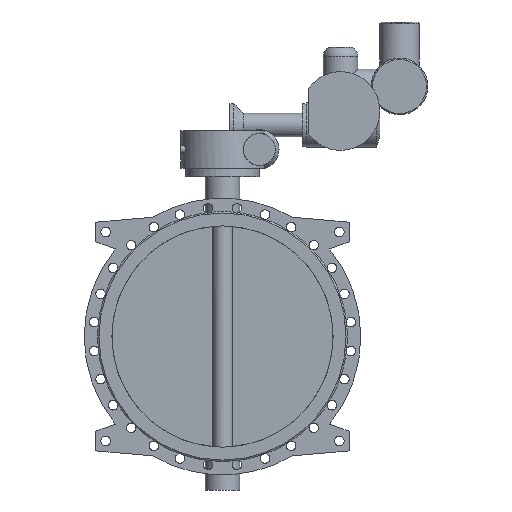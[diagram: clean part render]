
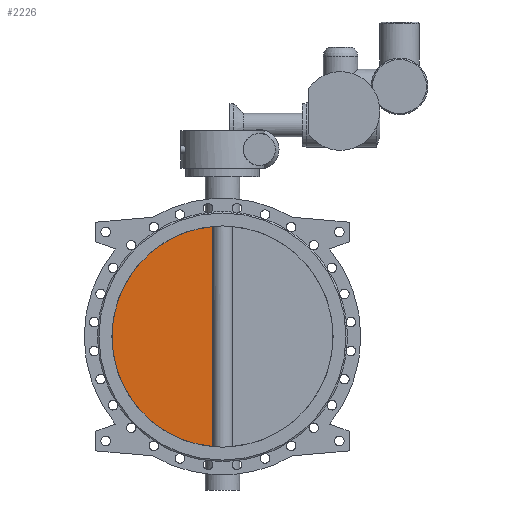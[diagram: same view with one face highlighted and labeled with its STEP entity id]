
A CAD part, front view. The second image highlights one B-rep face of the part: STEP entity #2226.
In plain terms, the highlighted planar face has unit normal (0, -1, 0).
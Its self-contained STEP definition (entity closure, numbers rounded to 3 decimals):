
#2226=ADVANCED_FACE('',(#4438),#4440,.T.);
#4438=FACE_BOUND('',#4439,.T.);
#4439=EDGE_LOOP('',(#5727,#5728));
#4440=PLANE('',#4441);
#4441=AXIS2_PLACEMENT_3D('',#4442,#4443,#4444);
#4442=CARTESIAN_POINT('',(0.,-10.,0.));
#4443=DIRECTION('',(0.,-1.,0.));
#4444=DIRECTION('',(1.,0.,0.));
#5727=ORIENTED_EDGE('',*,*,#6362,.T.);
#5728=ORIENTED_EDGE('',*,*,#6371,.T.);
#6362=EDGE_CURVE('',#7494,#7492,#7495,.F.);
#6371=EDGE_CURVE('',#7492,#7494,#7510,.F.);
#7492=VERTEX_POINT('',#16643);
#7494=VERTEX_POINT('',#16728);
#7495=CIRCLE('',#16729,450.);
#7510=LINE('',#16998,#16999);
#16643=CARTESIAN_POINT('',(-38.73,-10.,-448.33));
#16728=CARTESIAN_POINT('',(-38.73,-10.,448.33));
#16729=AXIS2_PLACEMENT_3D('',#16730,#16731,#16732);
#16730=CARTESIAN_POINT('',(0.,-10.,0.));
#16731=DIRECTION('',(0.,1.,0.));
#16732=DIRECTION('',(-0.086,0.,-0.996));
#16998=CARTESIAN_POINT('',(-38.73,-10.,448.33));
#16999=VECTOR('',#17000,1.);
#17000=DIRECTION('',(0.,0.,-1.));
